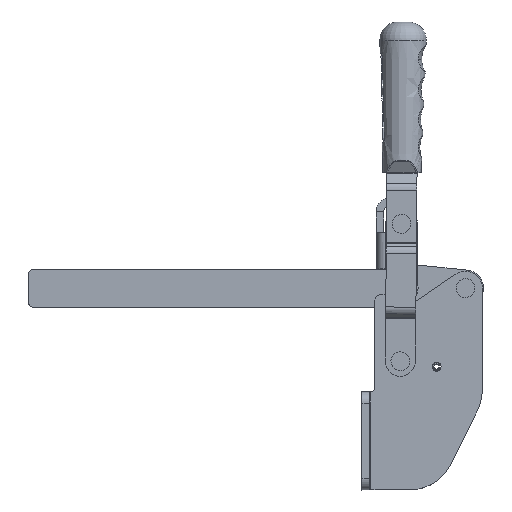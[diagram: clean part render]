
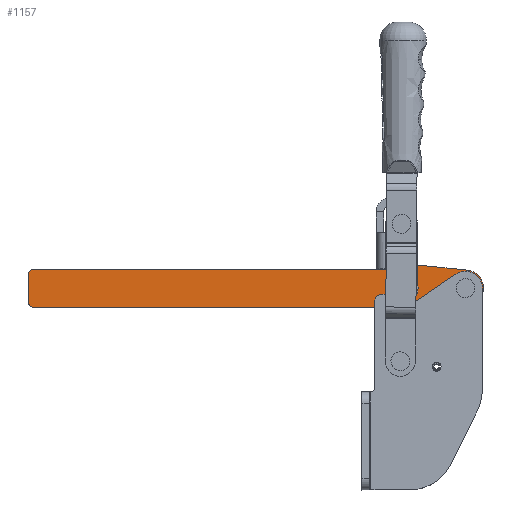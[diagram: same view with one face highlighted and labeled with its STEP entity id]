
A CAD part, top view. The second image highlights one B-rep face of the part: STEP entity #1157.
In plain terms, the highlighted planar face has unit normal (0, 0, 1).
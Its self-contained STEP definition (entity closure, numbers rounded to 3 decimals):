
#8 = EDGE_CURVE ( 'NONE', #7149, #7894, #6495, .T. ) ;
#153 = ORIENTED_EDGE ( 'NONE', *, *, #8312, .F. ) ;
#426 = CARTESIAN_POINT ( 'NONE',  ( 287., 12.5, 0. ) ) ;
#488 = DIRECTION ( 'NONE',  ( 1., 0., 0. ) ) ;
#753 = DIRECTION ( 'NONE',  ( -1., 0., 0. ) ) ;
#868 = AXIS2_PLACEMENT_3D ( 'NONE', #8688, #23973, #1344 ) ;
#871 = DIRECTION ( 'NONE',  ( 0., 0., 1. ) ) ;
#1157 = ADVANCED_FACE ( 'NONE', ( #14869, #18503, #1467 ), #13013, .F. ) ;
#1159 = EDGE_CURVE ( 'NONE', #14177, #23550, #15620, .T. ) ;
#1344 = DIRECTION ( 'NONE',  ( 1., 0., 0. ) ) ;
#1467 = FACE_OUTER_BOUND ( 'NONE', #8215, .T. ) ;
#1584 = DIRECTION ( 'NONE',  ( -1., 0., 0. ) ) ;
#1746 = AXIS2_PLACEMENT_3D ( 'NONE', #9532, #7925, #1840 ) ;
#1750 = DIRECTION ( 'NONE',  ( 1., 0., 0. ) ) ;
#1797 = DIRECTION ( 'NONE',  ( -0.995, -0.105, 0. ) ) ;
#1836 = ORIENTED_EDGE ( 'NONE', *, *, #24459, .F. ) ;
#1840 = DIRECTION ( 'NONE',  ( -1., 0., 0. ) ) ;
#1856 = CIRCLE ( 'NONE', #14538, 6. ) ;
#1889 = CARTESIAN_POINT ( 'NONE',  ( 48., 0., 0. ) ) ;
#1940 = CIRCLE ( 'NONE', #3140, 16. ) ;
#2055 = ORIENTED_EDGE ( 'NONE', *, *, #16915, .T. ) ;
#2217 = DIRECTION ( 'NONE',  ( -1., 0., 0. ) ) ;
#2386 = CARTESIAN_POINT ( 'NONE',  ( 287., 9.5, 0. ) ) ;
#2786 = CARTESIAN_POINT ( 'NONE',  ( -6., 0., 0. ) ) ;
#3064 = CIRCLE ( 'NONE', #21729, 6. ) ;
#3129 = VECTOR ( 'NONE', #1750, 1000. ) ;
#3140 = AXIS2_PLACEMENT_3D ( 'NONE', #17523, #19514, #488 ) ;
#3261 = CARTESIAN_POINT ( 'NONE',  ( 290., -9.5, 0. ) ) ;
#3436 = DIRECTION ( 'NONE',  ( 1., 0., 0. ) ) ;
#3740 = LINE ( 'NONE', #3261, #19004 ) ;
#3777 = VERTEX_POINT ( 'NONE', #1889 ) ;
#3840 = EDGE_CURVE ( 'NONE', #12519, #14177, #5286, .T. ) ;
#3885 = VECTOR ( 'NONE', #20447, 1000. ) ;
#4065 = CARTESIAN_POINT ( 'NONE',  ( 51.239, -12.5, 0. ) ) ;
#4355 = EDGE_CURVE ( 'NONE', #23550, #21415, #13802, .T. ) ;
#4578 = EDGE_CURVE ( 'NONE', #21415, #7149, #12845, .T. ) ;
#4647 = VERTEX_POINT ( 'NONE', #2786 ) ;
#4668 = EDGE_LOOP ( 'NONE', ( #15298, #22244 ) ) ;
#5257 = VECTOR ( 'NONE', #13266, 1000. ) ;
#5286 = LINE ( 'NONE', #12842, #3885 ) ;
#5410 = DIRECTION ( 'NONE',  ( 1., 0., 0. ) ) ;
#5632 = CARTESIAN_POINT ( 'NONE',  ( 0., 0., 0. ) ) ;
#5688 = DIRECTION ( 'NONE',  ( 0., 0., 1. ) ) ;
#5889 = CIRCLE ( 'NONE', #8261, 3. ) ;
#6203 = EDGE_CURVE ( 'NONE', #15073, #23468, #15390, .T. ) ;
#6215 = CARTESIAN_POINT ( 'NONE',  ( 51.239, 12.5, 0. ) ) ;
#6314 = VERTEX_POINT ( 'NONE', #17629 ) ;
#6327 = CARTESIAN_POINT ( 'NONE',  ( 0., 0., 0. ) ) ;
#6495 = CIRCLE ( 'NONE', #12812, 12. ) ;
#6872 = AXIS2_PLACEMENT_3D ( 'NONE', #2386, #871, #753 ) ;
#7009 = CARTESIAN_POINT ( 'NONE',  ( 46.228, 13.846, 0. ) ) ;
#7081 = ORIENTED_EDGE ( 'NONE', *, *, #4578, .T. ) ;
#7120 = DIRECTION ( 'NONE',  ( 1., 0., 0. ) ) ;
#7149 = VERTEX_POINT ( 'NONE', #21448 ) ;
#7642 = EDGE_CURVE ( 'NONE', #3777, #6314, #22609, .T. ) ;
#7894 = VERTEX_POINT ( 'NONE', #8432 ) ;
#7925 = DIRECTION ( 'NONE',  ( 0., 0., -1. ) ) ;
#8215 = EDGE_LOOP ( 'NONE', ( #2055, #22108, #22974, #8712, #7081, #12474, #18710, #10622, #15588, #20191, #14355, #18884 ) ) ;
#8261 = AXIS2_PLACEMENT_3D ( 'NONE', #10202, #23388, #19170 ) ;
#8312 = EDGE_CURVE ( 'NONE', #4647, #17108, #12702, .T. ) ;
#8343 = AXIS2_PLACEMENT_3D ( 'NONE', #12932, #8864, #7120 ) ;
#8432 = CARTESIAN_POINT ( 'NONE',  ( -1.256, -11.934, 0. ) ) ;
#8688 = CARTESIAN_POINT ( 'NONE',  ( 51.239, -22.5, 0. ) ) ;
#8712 = ORIENTED_EDGE ( 'NONE', *, *, #4355, .T. ) ;
#8864 = DIRECTION ( 'NONE',  ( 0., 0., 1. ) ) ;
#9125 = VERTEX_POINT ( 'NONE', #10662 ) ;
#9370 = CARTESIAN_POINT ( 'NONE',  ( 287., -12.5, 0. ) ) ;
#9532 = CARTESIAN_POINT ( 'NONE',  ( 287., 9.5, 0. ) ) ;
#10202 = CARTESIAN_POINT ( 'NONE',  ( 287., -9.5, 0. ) ) ;
#10397 = DIRECTION ( 'NONE',  ( 1., 0., 0. ) ) ;
#10622 = ORIENTED_EDGE ( 'NONE', *, *, #11245, .T. ) ;
#10662 = CARTESIAN_POINT ( 'NONE',  ( 290., 9.5, 0. ) ) ;
#10816 = DIRECTION ( 'NONE',  ( 0., 1., 0. ) ) ;
#10979 = CARTESIAN_POINT ( 'NONE',  ( -1.256, 11.934, 0. ) ) ;
#11037 = AXIS2_PLACEMENT_3D ( 'NONE', #24450, #5688, #1584 ) ;
#11047 = CARTESIAN_POINT ( 'NONE',  ( 290., -9.5, 0. ) ) ;
#11082 = EDGE_CURVE ( 'NONE', #19549, #9125, #3740, .T. ) ;
#11245 = EDGE_CURVE ( 'NONE', #14779, #17548, #1940, .T. ) ;
#11399 = LINE ( 'NONE', #24596, #5257 ) ;
#11615 = CARTESIAN_POINT ( 'NONE',  ( 46.228, -13.846, 0. ) ) ;
#12474 = ORIENTED_EDGE ( 'NONE', *, *, #8, .T. ) ;
#12519 = VERTEX_POINT ( 'NONE', #426 ) ;
#12702 = CIRCLE ( 'NONE', #20270, 6. ) ;
#12812 = AXIS2_PLACEMENT_3D ( 'NONE', #18949, #18120, #5410 ) ;
#12842 = CARTESIAN_POINT ( 'NONE',  ( 51.239, 12.5, 0. ) ) ;
#12845 = LINE ( 'NONE', #10979, #14227 ) ;
#12932 = CARTESIAN_POINT ( 'NONE',  ( 42., 0., 0. ) ) ;
#13013 = PLANE ( 'NONE',  #1746 ) ;
#13060 = CARTESIAN_POINT ( 'NONE',  ( 36.535, -15.912, 0. ) ) ;
#13266 = DIRECTION ( 'NONE',  ( 0.995, -0.105, 0. ) ) ;
#13802 = CIRCLE ( 'NONE', #11037, 16. ) ;
#14177 = VERTEX_POINT ( 'NONE', #6215 ) ;
#14214 = EDGE_CURVE ( 'NONE', #17548, #15073, #19934, .T. ) ;
#14227 = VECTOR ( 'NONE', #1797, 1000. ) ;
#14355 = ORIENTED_EDGE ( 'NONE', *, *, #21517, .T. ) ;
#14538 = AXIS2_PLACEMENT_3D ( 'NONE', #16956, #20453, #3436 ) ;
#14779 = VERTEX_POINT ( 'NONE', #13060 ) ;
#14869 = FACE_BOUND ( 'NONE', #4668, .T. ) ;
#15073 = VERTEX_POINT ( 'NONE', #4065 ) ;
#15298 = ORIENTED_EDGE ( 'NONE', *, *, #7642, .F. ) ;
#15390 = LINE ( 'NONE', #20886, #3129 ) ;
#15418 = DIRECTION ( 'NONE',  ( 0., 0., 1. ) ) ;
#15588 = ORIENTED_EDGE ( 'NONE', *, *, #14214, .T. ) ;
#15620 = CIRCLE ( 'NONE', #18817, 10. ) ;
#16078 = EDGE_CURVE ( 'NONE', #7894, #14779, #11399, .T. ) ;
#16421 = EDGE_LOOP ( 'NONE', ( #1836, #153 ) ) ;
#16915 = EDGE_CURVE ( 'NONE', #9125, #12519, #24329, .T. ) ;
#16956 = CARTESIAN_POINT ( 'NONE',  ( 42., 0., 0. ) ) ;
#17050 = CARTESIAN_POINT ( 'NONE',  ( 36.535, 15.912, 0. ) ) ;
#17108 = VERTEX_POINT ( 'NONE', #22483 ) ;
#17113 = CARTESIAN_POINT ( 'NONE',  ( 51.239, 22.5, 0. ) ) ;
#17523 = CARTESIAN_POINT ( 'NONE',  ( 38.21, 0., 0. ) ) ;
#17548 = VERTEX_POINT ( 'NONE', #11615 ) ;
#17629 = CARTESIAN_POINT ( 'NONE',  ( 36., 0., 0. ) ) ;
#18120 = DIRECTION ( 'NONE',  ( 0., 0., 1. ) ) ;
#18503 = FACE_BOUND ( 'NONE', #16421, .T. ) ;
#18710 = ORIENTED_EDGE ( 'NONE', *, *, #16078, .T. ) ;
#18817 = AXIS2_PLACEMENT_3D ( 'NONE', #17113, #18866, #2217 ) ;
#18866 = DIRECTION ( 'NONE',  ( 0., 0., -1. ) ) ;
#18884 = ORIENTED_EDGE ( 'NONE', *, *, #11082, .T. ) ;
#18949 = CARTESIAN_POINT ( 'NONE',  ( 0., 0., 0. ) ) ;
#19004 = VECTOR ( 'NONE', #10816, 1000. ) ;
#19170 = DIRECTION ( 'NONE',  ( 1., 0., 0. ) ) ;
#19514 = DIRECTION ( 'NONE',  ( 0., 0., 1. ) ) ;
#19549 = VERTEX_POINT ( 'NONE', #11047 ) ;
#19616 = DIRECTION ( 'NONE',  ( 0., 0., 1. ) ) ;
#19934 = CIRCLE ( 'NONE', #868, 10. ) ;
#20057 = EDGE_CURVE ( 'NONE', #6314, #3777, #1856, .T. ) ;
#20191 = ORIENTED_EDGE ( 'NONE', *, *, #6203, .T. ) ;
#20270 = AXIS2_PLACEMENT_3D ( 'NONE', #5632, #15418, #23014 ) ;
#20447 = DIRECTION ( 'NONE',  ( -1., 0., 0. ) ) ;
#20453 = DIRECTION ( 'NONE',  ( 0., 0., 1. ) ) ;
#20886 = CARTESIAN_POINT ( 'NONE',  ( 51.239, -12.5, 0. ) ) ;
#21415 = VERTEX_POINT ( 'NONE', #17050 ) ;
#21448 = CARTESIAN_POINT ( 'NONE',  ( -1.256, 11.934, 0. ) ) ;
#21517 = EDGE_CURVE ( 'NONE', #23468, #19549, #5889, .T. ) ;
#21729 = AXIS2_PLACEMENT_3D ( 'NONE', #6327, #19616, #10397 ) ;
#22108 = ORIENTED_EDGE ( 'NONE', *, *, #3840, .T. ) ;
#22244 = ORIENTED_EDGE ( 'NONE', *, *, #20057, .F. ) ;
#22483 = CARTESIAN_POINT ( 'NONE',  ( 6., 0., 0. ) ) ;
#22609 = CIRCLE ( 'NONE', #8343, 6. ) ;
#22974 = ORIENTED_EDGE ( 'NONE', *, *, #1159, .T. ) ;
#23014 = DIRECTION ( 'NONE',  ( 1., 0., 0. ) ) ;
#23388 = DIRECTION ( 'NONE',  ( 0., 0., 1. ) ) ;
#23468 = VERTEX_POINT ( 'NONE', #9370 ) ;
#23550 = VERTEX_POINT ( 'NONE', #7009 ) ;
#23973 = DIRECTION ( 'NONE',  ( 0., 0., -1. ) ) ;
#24329 = CIRCLE ( 'NONE', #6872, 3. ) ;
#24450 = CARTESIAN_POINT ( 'NONE',  ( 38.21, 0., 0. ) ) ;
#24459 = EDGE_CURVE ( 'NONE', #17108, #4647, #3064, .T. ) ;
#24596 = CARTESIAN_POINT ( 'NONE',  ( -1.256, -11.934, 0. ) ) ;
